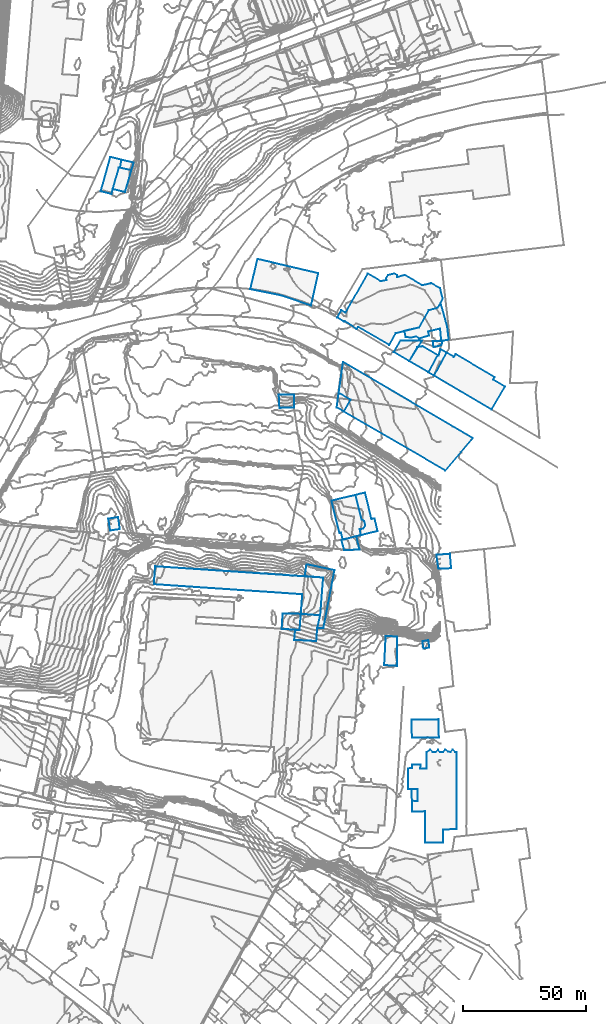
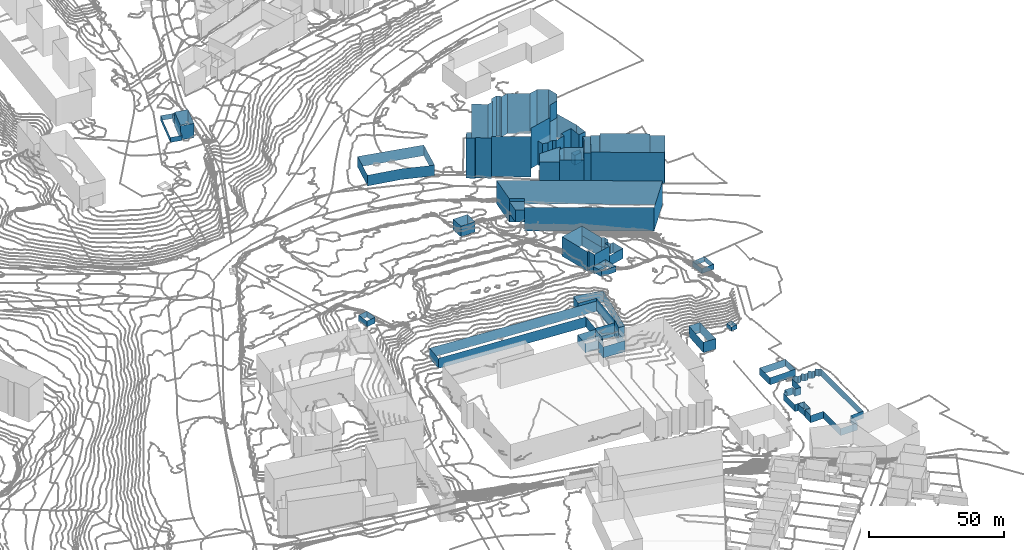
# Not in any storey, part 54 of 419: 28 walls.
"""IFC2X3 model written with IfcOpenShell, lengths in metres."""

from ifc_helpers import new_model, si_unit, frame, origin_with_axes, place, context, subcontext, project, faceted_brep, element, save


model = new_model("IFC2X3")

# Units and contexts
model_context = context("Model", 3, precision=1e-05, world=origin_with_axes())
body_context = subcontext(model_context, "Body", "Model", "MODEL_VIEW")
ifc_project = project(units=[si_unit("AREAUNIT", "SQUARE_METRE"), si_unit("LENGTHUNIT", "METRE")], contexts=[model_context])

# Walls
wall_1_placement = place(None, frame((953.4920204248, 415.3976909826, 67.8876001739), z_axis=(0.0, 0.0, 1.0), x_axis=(1.0, 0.0, 0.0)))
element("IfcWall", 1, at=wall_1_placement, Name="Mur 0", context=body_context, shape_type="Brep", body=[
    faceted_brep([(5.2, -0.2999999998, 4.7123998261), (0.0, 0.0, 4.7123998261), (5.2, -0.2999999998, 0.0), (0.0, 0.0, 0.0), (5.2999999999, 11.7000000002, 4.7123998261), (5.2999999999, 11.7000000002, 0.0), (0.6, 11.7999999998, 4.7123998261), (0.6, 11.7999999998, 0.0)], [[[0, 1, 2]], [[2, 1, 3]], [[4, 0, 5]], [[5, 0, 2]], [[1, 6, 3]], [[3, 6, 7]], [[6, 4, 7]], [[7, 4, 5]]]),
])
wall_2_placement = place(None, frame((964.6920204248, 393.1976909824, 67.3694023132), z_axis=(0.0, 0.0, 1.0), x_axis=(1.0, 0.0, 0.0)))
element("IfcWall", 2, at=wall_2_placement, Name="Mur 0", context=body_context, shape_type="Brep", body=[
    faceted_brep([(11.0, 0.1000000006, 3.2305976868), (11.1, -7.2999999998, 3.2305976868), (11.0, 0.1000000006, 0.0), (11.1, -7.2999999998, 0.0), (0.0, 0.0, 3.2305976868), (0.0, 0.0, 0.0), (0.1, -7.3999999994, 3.2305976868), (0.1, -7.3999999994, 0.0)], [[[0, 1, 2]], [[2, 1, 3]], [[4, 0, 5]], [[5, 0, 2]], [[1, 6, 3]], [[3, 6, 7]], [[6, 4, 7]], [[7, 4, 5]]]),
])
wall_3_placement = place(None, frame((916.7920204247, 425.6976909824, 72.122000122), z_axis=(0.0, 0.0, 1.0), x_axis=(1.0, 0.0, 0.0)))
element("IfcWall", 3, at=wall_3_placement, Name="Mur 0", context=body_context, shape_type="Brep", body=[
    faceted_brep([(0.0, 0.0, 4.977999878), (0.4, 4.1000000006, 4.977999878), (0.0, 0.0, 0.0), (0.4, 4.1000000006, 0.0), (9.0, -0.5, 4.977999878), (9.0, -0.5, 0.0), (9.4, 4.9000000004, 4.977999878), (9.4, 4.9000000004, 0.0), (10.6000000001, 10.0, 4.977999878), (10.6000000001, 10.0, 0.0), (2.7000000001, 10.6000000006, 4.977999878), (2.7000000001, 10.6000000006, 0.0), (2.2000000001, 4.0, 4.977999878), (2.2000000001, 4.0, 0.0)], [[[0, 1, 2]], [[2, 1, 3]], [[4, 0, 5]], [[5, 0, 2]], [[6, 4, 7]], [[7, 4, 5]], [[8, 6, 9]], [[9, 6, 7]], [[10, 8, 11]], [[11, 8, 9]], [[1, 12, 3]], [[3, 12, 13]], [[12, 10, 13]], [[13, 10, 11]]]),
])
wall_4_placement = place(None, frame((898.8920204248, 568.6976909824, 69.1679992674), z_axis=(0.0, 0.0, 1.0), x_axis=(1.0, 0.0, 0.0)))
element("IfcWall", 4, at=wall_4_placement, Name="Mur 0", context=body_context, shape_type="Brep", body=[
    faceted_brep([(27.7, 6.5, 4.8320007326), (25.2, -4.5999999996, 4.8320007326), (27.7, 6.5, 0.0), (25.2, -4.5999999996, 0.0), (2.8999999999, 12.2999999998, 4.8320007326), (2.8999999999, 12.2999999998, 0.0), (0.0, 0.0, 4.8320007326), (0.0, 0.0, 0.0), (12.7, -2.5999999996, 4.8320007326), (12.7, -2.5999999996, 0.0), (24.7, -6.7000000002, 4.8320007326), (24.7, -6.7000000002, 0.0)], [[[0, 1, 2]], [[2, 1, 3]], [[4, 0, 5]], [[5, 0, 2]], [[6, 4, 7]], [[7, 4, 5]], [[8, 6, 9]], [[9, 6, 7]], [[1, 10, 3]], [[3, 10, 11]], [[10, 8, 11]], [[11, 8, 9]]]),
])
wall_5_placement = place(None, frame((859.5920204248, 448.3976909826, 73.6399993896), z_axis=(0.0, 0.0, 1.0), x_axis=(1.0, 0.0, 0.0)))
element("IfcWall", 5, at=wall_5_placement, Name="Mur 0", context=body_context, shape_type="Brep", body=[
    faceted_brep([(67.8, -12.7000000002, 4.5600006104), (59.9, -12.0999999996, 4.5600006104), (67.8, -12.7000000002, 0.0), (59.9, -12.0999999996, 0.0), (69.0, 2.7000000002, 4.5600006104), (69.0, 2.7000000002, 0.0), (0.5, 7.2999999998, 4.5600006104), (0.5, 7.2999999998, 0.0), (0.0, 0.0, 4.5600006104), (0.0, 0.0, 0.0), (60.5, -4.0999999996, 4.5600006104), (60.5, -4.0999999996, 0.0)], [[[0, 1, 2]], [[2, 1, 3]], [[4, 0, 5]], [[5, 0, 2]], [[6, 4, 7]], [[7, 4, 5]], [[8, 6, 9]], [[9, 6, 7]], [[1, 10, 3]], [[3, 10, 11]], [[10, 8, 11]], [[11, 8, 9]]]),
])
wall_6_placement = place(None, frame((973.7920204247, 533.3976909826, 65.5460006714), z_axis=(0.0, 0.0, 1.0), x_axis=(1.0, 0.0, 0.0)))
element("IfcWall", 6, at=wall_6_placement, Name="Mur 0", context=body_context, shape_type="Brep", body=[
    faceted_brep([(0.0, 0.0, 14.0539993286), (5.1000000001, 9.4000000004, 14.0539993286), (0.0, 0.0, 0.0), (5.1000000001, 9.4000000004, 0.0), (23.4, -13.7999999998, 14.0539993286), (23.4, -13.7999999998, 0.0), (28.9, -4.5, 14.0539993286), (28.9, -4.5, 0.0), (24.2000000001, -1.5999999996, 14.0539993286), (24.2000000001, -1.5999999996, 0.0), (24.7000000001, -0.5999999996, 14.0539993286), (24.7000000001, -0.5999999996, 0.0), (8.8, 8.7999999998, 14.0539993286), (8.8, 8.7999999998, 0.0), (8.1000000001, 7.7000000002, 14.0539993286), (8.1000000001, 7.7000000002, 0.0)], [[[0, 1, 2]], [[2, 1, 3]], [[4, 0, 5]], [[5, 0, 2]], [[6, 4, 7]], [[7, 4, 5]], [[8, 6, 9]], [[9, 6, 7]], [[10, 8, 11]], [[11, 8, 9]], [[12, 10, 13]], [[13, 10, 11]], [[1, 14, 3]], [[3, 14, 15]], [[14, 12, 15]], [[15, 12, 13]]]),
])
wall_7_placement = place(None, frame((840.9920204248, 475.0976909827, 85.326399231), z_axis=(0.0, 0.0, 1.0), x_axis=(1.0, 0.0, 0.0)))
element("IfcWall", 7, at=wall_7_placement, Name="Mur 0", context=body_context, shape_type="Brep", body=[
    faceted_brep([(0.0, 0.0, 2.673600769), (4.0, 0.7000000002, 2.673600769), (0.0, 0.0, 0.0), (4.0, 0.7000000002, 0.0), (0.7999999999, -4.7999999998, 2.673600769), (0.7999999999, -4.7999999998, 0.0), (4.7, -4.2000000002, 2.673600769), (4.7, -4.2000000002, 0.0)], [[[0, 1, 2]], [[2, 1, 3]], [[4, 0, 5]], [[5, 0, 2]], [[1, 6, 3]], [[3, 6, 7]], [[6, 4, 7]], [[7, 4, 5]]]),
])
wall_8_placement = place(None, frame((961.6920204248, 551.6976909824, 67.0032022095), z_axis=(0.0, 0.0, 1.0), x_axis=(1.0, 0.0, 0.0)))
element("IfcWall", 8, at=wall_8_placement, Name="Mur 0", context=body_context, shape_type="Brep", body=[
    faceted_brep([(13.6, 9.4000000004, 10.7967977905), (14.8, 11.4000000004, 10.7967977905), (13.6, 9.4000000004, 0.0), (14.8, 11.4000000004, 0.0), (10.0, 8.4000000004, 10.7967977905), (10.0, 8.4000000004, 0.0), (6.0, 1.4000000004, 10.7967977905), (6.0, 1.4000000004, 0.0), (0.0, 0.0, 10.7967977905), (0.0, 0.0, 0.0), (0.6, -2.5, 10.7967977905), (0.6, -2.5, 0.0), (2.7000000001, -2.7999999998, 10.7967977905), (2.7000000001, -2.7999999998, 0.0), (4.8, -2.2999999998, 10.7967977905), (4.8, -2.2999999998, 0.0), (6.0, -3.0999999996, 10.7967977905), (6.0, -3.0999999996, 0.0), (10.1, -1.8999999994, 10.7967977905), (10.1, -1.8999999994, 0.0), (9.8, -0.2000000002, 10.7967977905), (9.8, -0.2000000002, 0.0), (14.6, 0.9000000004, 10.7967977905), (14.6, 0.9000000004, 0.0), (15.1, -4.0999999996, 10.7967977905), (15.1, -4.0999999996, 0.0), (18.1, -3.5999999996, 10.7967977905), (18.1, -3.5999999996, 0.0), (17.5, 1.7999999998, 10.7967977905), (17.5, 1.7999999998, 0.0)], [[[0, 1, 2]], [[2, 1, 3]], [[4, 0, 5]], [[5, 0, 2]], [[6, 4, 7]], [[7, 4, 5]], [[8, 6, 9]], [[9, 6, 7]], [[10, 8, 11]], [[11, 8, 9]], [[12, 10, 13]], [[13, 10, 11]], [[14, 12, 15]], [[15, 12, 13]], [[16, 14, 17]], [[17, 14, 15]], [[18, 16, 19]], [[19, 16, 17]], [[20, 18, 21]], [[21, 18, 19]], [[22, 20, 23]], [[23, 20, 21]], [[24, 22, 25]], [[25, 22, 23]], [[26, 24, 27]], [[27, 24, 25]], [[1, 28, 3]], [[3, 28, 29]], [[28, 26, 29]], [[29, 26, 27]]]),
])
wall_9_placement = place(None, frame((934.8920204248, 526.3976909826, 65.8939987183), z_axis=(0.0, 0.0, 1.0), x_axis=(1.0, 0.0, 0.0)))
element("IfcWall", 9, at=wall_9_placement, Name="Mur 0", context=body_context, shape_type="Brep", body=[
    faceted_brep([(0.0, 0.0, 10.6060012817), (1.7999999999, 12.5999999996, 10.6060012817), (0.0, 0.0, 0.0), (1.7999999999, 12.5999999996, 0.0), (4.8999999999, -2.7999999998, 10.6060012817), (4.8999999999, -2.7999999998, 0.0), (2.1, -7.5999999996, 10.6060012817), (2.1, -7.5999999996, 0.0), (43.5, -31.5999999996, 10.6060012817), (43.5, -31.5999999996, 0.0), (54.7, -18.4000000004, 10.6060012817), (54.7, -18.4000000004, 0.0)], [[[0, 1, 2]], [[2, 1, 3]], [[4, 0, 5]], [[5, 0, 2]], [[6, 4, 7]], [[7, 4, 5]], [[8, 6, 9]], [[9, 6, 7]], [[1, 10, 3]], [[3, 10, 11]], [[10, 8, 11]], [[11, 8, 9]]]),
])
wall_10_placement = place(None, frame((963.6920204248, 539.3976909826, 66.1481985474), z_axis=(0.0, 0.0, 1.0), x_axis=(1.0, 0.0, 0.0)))
element("IfcWall", 10, at=wall_10_placement, Name="Mur 0", context=body_context, shape_type="Brep", body=[
    faceted_brep([(7.8, -4.5999999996, 9.8518014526), (0.0, 0.0, 9.8518014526), (7.8, -4.5999999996, 0.0), (0.0, 0.0, 0.0), (11.6, 2.4000000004, 9.8518014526), (11.6, 2.4000000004, 0.0), (5.5, 6.0, 9.8518014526), (5.5, 6.0, 0.0), (3.3, 5.7000000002, 9.8518014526), (3.3, 5.7000000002, 0.0)], [[[0, 1, 2]], [[2, 1, 3]], [[4, 0, 5]], [[5, 0, 2]], [[6, 4, 7]], [[7, 4, 5]], [[1, 8, 3]], [[3, 8, 9]], [[8, 6, 9]], [[9, 6, 7]]]),
])
wall_11_placement = place(None, frame((921.0920204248, 451.6976909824, 74.3155002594), z_axis=(0.0, 0.0, 1.0), x_axis=(1.0, 0.0, 0.0)))
element("IfcWall", 11, at=wall_11_placement, Name="Mur 0", context=body_context, shape_type="Brep", body=[
    faceted_brep([(7.5, -0.5999999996, 5.1844997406), (0.0, 0.0, 5.1844997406), (7.5, -0.5999999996, 0.0), (0.0, 0.0, 0.0), (6.3, -16.0, 5.1844997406), (6.3, -16.0, 0.0), (5.1, -21.0999999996, 5.1844997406), (5.1, -21.0999999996, 0.0), (7.6, -21.2000000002, 5.1844997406), (7.6, -21.2000000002, 0.0), (12.1, 2.4000000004, 5.1844997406), (12.1, 2.4000000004, 0.0), (0.7, 4.7999999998, 5.1844997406), (0.7, 4.7999999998, 0.0)], [[[0, 1, 2]], [[2, 1, 3]], [[4, 0, 5]], [[5, 0, 2]], [[6, 4, 7]], [[7, 4, 5]], [[8, 6, 9]], [[9, 6, 7]], [[10, 8, 11]], [[11, 8, 9]], [[1, 12, 3]], [[3, 12, 13]], [[12, 10, 13]], [[13, 10, 11]]]),
])
wall_12_placement = place(None, frame((974.7920204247, 460.3976909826, 71.9800033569), z_axis=(0.0, 0.0, 1.0), x_axis=(1.0, 0.0, 0.0)))
element("IfcWall", 12, at=wall_12_placement, Name="Mur 0", context=body_context, shape_type="Brep", body=[
    faceted_brep([(6.0, -5.5, 2.3199966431), (0.8, -5.7000000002, 2.3199966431), (6.0, -5.5, 0.0), (0.8, -5.7000000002, 0.0), (5.5, 0.4000000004, 2.3199966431), (5.5, 0.4000000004, 0.0), (0.0, 0.0, 2.3199966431), (0.0, 0.0, 0.0)], [[[0, 1, 2]], [[2, 1, 3]], [[4, 0, 5]], [[5, 0, 2]], [[1, 6, 3]], [[3, 6, 7]], [[6, 4, 7]], [[7, 4, 5]]]),
])
wall_13_placement = place(None, frame((936.0920204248, 466.3976909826, 79.3064013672), z_axis=(0.0, 0.0, 1.0), x_axis=(1.0, 0.0, 0.0)))
element("IfcWall", 13, at=wall_13_placement, Name="Mur 0", context=body_context, shape_type="Brep", body=[
    faceted_brep([(6.1, 1.5999999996, 2.5935986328), (7.3, -3.9000000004, 2.5935986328), (6.1, 1.5999999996, 0.0), (7.3, -3.9000000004, 0.0), (0.0, 0.0, 2.5935986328), (0.0, 0.0, 0.0), (1.1, -4.0999999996, 2.5935986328), (1.1, -4.0999999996, 0.0)], [[[0, 1, 2]], [[2, 1, 3]], [[4, 0, 5]], [[5, 0, 2]], [[1, 6, 3]], [[3, 6, 7]], [[6, 4, 7]], [[7, 4, 5]]]),
])
wall_14_placement = place(None, frame((969.0920204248, 425.1976909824, 67.7818008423), z_axis=(0.0, 0.0, 1.0), x_axis=(1.0, 0.0, 0.0)))
element("IfcWall", 14, at=wall_14_placement, Name="Mur 0", context=body_context, shape_type="Brep", body=[
    faceted_brep([(2.4, 0.4000000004, 1.9181991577), (2.8, -2.5999999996, 1.9181991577), (2.4, 0.4000000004, 0.0), (2.8, -2.5999999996, 0.0), (0.0, 0.0, 1.9181991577), (0.0, 0.0, 0.0), (0.4, -3.0, 1.9181991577), (0.4, -3.0, 0.0)], [[[0, 1, 2]], [[2, 1, 3]], [[4, 0, 5]], [[5, 0, 2]], [[1, 6, 3]], [[3, 6, 7]], [[6, 4, 7]], [[7, 4, 5]]]),
])
wall_15_placement = place(None, frame((910.4920204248, 525.6976909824, 71.4103997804), z_axis=(0.0, 0.0, 1.0), x_axis=(1.0, 0.0, 0.0)))
element("IfcWall", 15, at=wall_15_placement, Name="Mur 0", context=body_context, shape_type="Brep", body=[
    faceted_brep([(6.2, 0.0, 4.7896002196), (6.2999999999, -5.2999999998, 4.7896002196), (6.2, 0.0, 0.0), (6.2999999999, -5.2999999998, 0.0), (0.0, 0.0, 4.7896002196), (0.0, 0.0, 0.0), (0.2999999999, -5.3999999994, 4.7896002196), (0.2999999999, -5.3999999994, 0.0)], [[[0, 1, 2]], [[2, 1, 3]], [[4, 0, 5]], [[5, 0, 2]], [[1, 6, 3]], [[3, 6, 7]], [[6, 4, 7]], [[7, 4, 5]]]),
])
wall_16_placement = place(None, frame((934.0920204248, 520.4976909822, 69.7540005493), z_axis=(0.0, 0.0, 1.0), x_axis=(1.0, 0.0, 0.0)))
element("IfcWall", 16, at=wall_16_placement, Name="Mur 0", context=body_context, shape_type="Brep", body=[
    faceted_brep([(0.0, 0.0, 5.4459994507), (0.8, 5.9000000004, 5.4459994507), (0.0, 0.0, 0.0), (0.8, 5.9000000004, 0.0), (2.9, -1.6999999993, 5.4459994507), (2.9, -1.6999999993, 0.0), (5.7, 3.1000000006, 5.4459994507), (5.7, 3.1000000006, 0.0)], [[[0, 1, 2]], [[2, 1, 3]], [[4, 0, 5]], [[5, 0, 2]], [[1, 6, 3]], [[3, 6, 7]], [[6, 4, 7]], [[7, 4, 5]]]),
])
wall_17_placement = place(None, frame((963.2920204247, 364.7976909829, 68.5444026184), z_axis=(0.0, 0.0, 1.0), x_axis=(1.0, 0.0, 0.0)))
element("IfcWall", 17, at=wall_17_placement, Name="Mur 0", context=body_context, shape_type="Brep", body=[
    faceted_brep([(1.5, -9.1000000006, 3.2555973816), (1.5, -4.7000000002, 3.2555973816), (1.5, -9.1000000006, 0.0), (1.5, -4.7000000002, 0.0), (6.9, -9.0, 3.2555973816), (6.9, -9.0, 0.0), (6.9, -21.8000000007, 3.2555973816), (6.9, -21.8000000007, 0.0), (14.2000000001, -21.8000000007, 3.2555973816), (14.2000000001, -21.8000000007, 0.0), (14.3, -16.4000000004, 3.2555973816), (14.3, -16.4000000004, 0.0), (19.8, -16.3000000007, 3.2555973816), (19.8, -16.3000000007, 0.0), (19.8, 15.1999999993, 3.2555973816), (19.8, 15.1999999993, 0.0), (19.1000000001, 15.1999999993, 3.2555973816), (19.1000000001, 15.1999999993, 0.0), (18.1000000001, 16.1999999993, 3.2555973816), (18.1000000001, 16.1999999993, 0.0), (17.2000000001, 15.1999999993, 3.2555973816), (17.2000000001, 15.1999999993, 0.0), (16.2000000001, 15.2999999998, 3.2555973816), (16.2000000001, 15.2999999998, 0.0), (15.0, 16.1999999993, 3.2555973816), (15.0, 16.1999999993, 0.0), (14.2000000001, 15.1999999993, 3.2555973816), (14.2000000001, 15.1999999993, 0.0), (13.0, 15.1999999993, 3.2555973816), (13.0, 15.1999999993, 0.0), (12.1000000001, 16.0999999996, 3.2555973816), (12.1000000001, 16.0999999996, 0.0), (11.2000000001, 15.1999999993, 3.2555973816), (11.2000000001, 15.1999999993, 0.0), (10.0, 15.1999999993, 3.2555973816), (10.0, 15.1999999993, 0.0), (9.0, 16.0999999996, 3.2555973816), (9.0, 16.0999999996, 0.0), (7.4, 15.0999999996, 3.2555973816), (7.4, 15.0999999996, 0.0), (7.5, 8.5, 3.2555973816), (7.5, 8.5, 0.0), (4.9, 8.5, 3.2555973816), (4.9, 8.5, 0.0), (5.0, 10.0, 3.2555973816), (5.0, 10.0, 0.0), (1.5, 10.0999999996, 3.2555973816), (1.5, 10.0999999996, 0.0), (1.5, 8.5999999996, 3.2555973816), (1.5, 8.5999999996, 0.0), (0.0, 8.5, 3.2555973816), (0.0, 8.5, 0.0), (0.0, 0.0, 3.2555973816), (0.0, 0.0, 0.0), (3.9, 0.0, 3.2555973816), (3.9, 0.0, 0.0), (3.8, -4.8000000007, 3.2555973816), (3.8, -4.8000000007, 0.0)], [[[0, 1, 2]], [[2, 1, 3]], [[4, 0, 5]], [[5, 0, 2]], [[6, 4, 7]], [[7, 4, 5]], [[8, 6, 9]], [[9, 6, 7]], [[10, 8, 11]], [[11, 8, 9]], [[12, 10, 13]], [[13, 10, 11]], [[14, 12, 15]], [[15, 12, 13]], [[16, 14, 17]], [[17, 14, 15]], [[18, 16, 19]], [[19, 16, 17]], [[20, 18, 21]], [[21, 18, 19]], [[22, 20, 23]], [[23, 20, 21]], [[24, 22, 25]], [[25, 22, 23]], [[26, 24, 27]], [[27, 24, 25]], [[28, 26, 29]], [[29, 26, 27]], [[30, 28, 31]], [[31, 28, 29]], [[32, 30, 33]], [[33, 30, 31]], [[34, 32, 35]], [[35, 32, 33]], [[36, 34, 37]], [[37, 34, 35]], [[38, 36, 39]], [[39, 36, 37]], [[40, 38, 41]], [[41, 38, 39]], [[42, 40, 43]], [[43, 40, 41]], [[44, 42, 45]], [[45, 42, 43]], [[46, 44, 47]], [[47, 44, 45]], [[48, 46, 49]], [[49, 46, 47]], [[50, 48, 51]], [[51, 48, 49]], [[52, 50, 53]], [[53, 50, 51]], [[54, 52, 55]], [[55, 52, 53]], [[1, 56, 3]], [[3, 56, 57]], [[56, 54, 57]], [[57, 54, 55]]]),
])
wall_18_placement = place(None, frame((842.7920204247, 609.4976909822, 84.8344024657), z_axis=(0.0, 0.0, 1.0), x_axis=(1.0, 0.0, 0.0)))
element("IfcWall", 18, at=wall_18_placement, Name="Mur 0", context=body_context, shape_type="Brep", body=[
    faceted_brep([(2.5, 8.8000000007, 6.3655975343), (7.6000000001, 7.7000000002, 6.3655975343), (2.5, 8.8000000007, 0.0), (7.6000000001, 7.7000000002, 0.0), (0.0, 0.0, 6.3655975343), (0.0, 0.0, 0.0), (5.0, -1.1999999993, 6.3655975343), (5.0, -1.1999999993, 0.0)], [[[0, 1, 2]], [[2, 1, 3]], [[4, 0, 5]], [[5, 0, 2]], [[1, 6, 3]], [[3, 6, 7]], [[6, 4, 7]], [[7, 4, 5]]]),
])
wall_19_placement = place(None, frame((934.2920204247, 557.1976909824, 67.2743998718), z_axis=(0.0, 0.0, 1.0), x_axis=(1.0, 0.0, 0.0)))
element("IfcWall", 19, at=wall_19_placement, Name="Mur 0", context=body_context, shape_type="Brep", body=[
    faceted_brep([(3.1000000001, -1.5, 18.1256001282), (2.8, -1.7999999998, 18.1256001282), (3.1000000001, -1.5, 0.0), (2.8, -1.7999999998, 0.0), (8.0, -4.7999999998, 18.1256001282), (8.0, -4.7999999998, 0.0), (8.6000000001, -3.8999999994, 18.1256001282), (8.6000000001, -3.8999999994, 0.0), (21.2000000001, -11.2000000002, 18.1256001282), (21.2000000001, -11.2000000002, 0.0), (23.9, -6.5, 18.1256001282), (23.9, -6.5, 0.0), (33.4, -4.0999999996, 18.1256001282), (33.4, -4.0999999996, 0.0), (37.4, 2.9000000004, 18.1256001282), (37.4, 2.9000000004, 0.0), (41.0, 3.9000000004, 18.1256001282), (41.0, 3.9000000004, 0.0), (43.1000000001, 7.6000000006, 18.1256001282), (43.1000000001, 7.6000000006, 0.0), (42.0, 11.9000000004, 18.1256001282), (42.0, 11.9000000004, 0.0), (38.3, 13.9000000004, 18.1256001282), (38.3, 13.9000000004, 0.0), (34.7000000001, 13.1000000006, 18.1256001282), (34.7000000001, 13.1000000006, 0.0), (27.5, 17.2999999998, 18.1256001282), (27.5, 17.2999999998, 0.0), (24.5, 16.4000000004, 18.1256001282), (24.5, 16.4000000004, 0.0), (24.4, 17.2000000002, 18.1256001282), (24.4, 17.2000000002, 0.0), (23.2000000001, 17.9000000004, 18.1256001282), (23.2000000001, 17.9000000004, 0.0), (20.7000000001, 17.2000000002, 18.1256001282), (20.7000000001, 17.2000000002, 0.0), (19.9, 15.9000000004, 18.1256001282), (19.9, 15.9000000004, 0.0), (20.1000000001, 15.2999999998, 18.1256001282), (20.1000000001, 15.2999999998, 0.0), (17.8, 14.7000000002, 18.1256001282), (17.8, 14.7000000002, 0.0), (12.5, 17.9000000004, 18.1256001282), (12.5, 17.9000000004, 0.0), (3.4, 1.9000000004, 18.1256001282), (3.4, 1.9000000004, 0.0), (1.7000000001, 2.9000000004, 18.1256001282), (1.7000000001, 2.9000000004, 0.0), (0.0, 0.0, 18.1256001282), (0.0, 0.0, 0.0)], [[[0, 1, 2]], [[2, 1, 3]], [[4, 0, 5]], [[5, 0, 2]], [[6, 4, 7]], [[7, 4, 5]], [[8, 6, 9]], [[9, 6, 7]], [[10, 8, 11]], [[11, 8, 9]], [[12, 10, 13]], [[13, 10, 11]], [[14, 12, 15]], [[15, 12, 13]], [[16, 14, 17]], [[17, 14, 15]], [[18, 16, 19]], [[19, 16, 17]], [[20, 18, 21]], [[21, 18, 19]], [[22, 20, 23]], [[23, 20, 21]], [[24, 22, 25]], [[25, 22, 23]], [[26, 24, 27]], [[27, 24, 25]], [[28, 26, 29]], [[29, 26, 27]], [[30, 28, 31]], [[31, 28, 29]], [[32, 30, 33]], [[33, 30, 31]], [[34, 32, 35]], [[35, 32, 33]], [[36, 34, 37]], [[37, 34, 35]], [[38, 36, 39]], [[39, 36, 37]], [[40, 38, 41]], [[41, 38, 39]], [[42, 40, 43]], [[43, 40, 41]], [[44, 42, 45]], [[45, 42, 43]], [[46, 44, 47]], [[47, 44, 45]], [[1, 48, 3]], [[3, 48, 49]], [[48, 46, 49]], [[49, 46, 47]]]),
])
wall_20_placement = place(None, frame((957.3920204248, 543.0976909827, 66.6909973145), z_axis=(0.0, 0.0, 1.0), x_axis=(1.0, 0.0, 0.0)))
element("IfcWall", 20, at=wall_20_placement, Name="Mur 0", context=body_context, shape_type="Brep", body=[
    faceted_brep([(6.2999999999, -3.7000000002, 8.3090026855), (0.0, 0.0, 8.3090026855), (6.2999999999, -3.7000000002, 0.0), (0.0, 0.0, 0.0), (11.5, 4.5999999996, 8.3090026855), (11.5, 4.5999999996, 0.0), (2.7, 4.5999999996, 8.3090026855), (2.7, 4.5999999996, 0.0)], [[[0, 1, 2]], [[2, 1, 3]], [[4, 0, 5]], [[5, 0, 2]], [[1, 6, 3]], [[3, 6, 7]], [[6, 4, 7]], [[7, 4, 5]]]),
])
wall_21_placement = place(None, frame((845.7920204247, 618.1976909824, 84.6286019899), z_axis=(0.0, 0.0, 1.0), x_axis=(1.0, 0.0, 0.0)))
element("IfcWall", 21, at=wall_21_placement, Name="Mur 0", context=body_context, shape_type="Brep", body=[
    faceted_brep([(5.5, 2.1000000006, 3.6713980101), (4.6000000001, -1.0, 3.6713980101), (5.5, 2.1000000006, 0.0), (4.6000000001, -1.0, 0.0), (0.5, 3.2999999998, 3.6713980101), (0.5, 3.2999999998, 0.0), (0.0, 0.0, 3.6713980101), (0.0, 0.0, 0.0)], [[[0, 1, 2]], [[2, 1, 3]], [[4, 0, 5]], [[5, 0, 2]], [[1, 6, 3]], [[3, 6, 7]], [[6, 4, 7]], [[7, 4, 5]]]),
])
wall_22_placement = place(None, frame((971.4920204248, 534.7976909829, 65.9439987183), z_axis=(0.0, 0.0, 1.0), x_axis=(1.0, 0.0, 0.0)))
element("IfcWall", 22, at=wall_22_placement, Name="Mur 0", context=body_context, shape_type="Brep", body=[
    faceted_brep([(2.2999999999, -1.4000000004, 13.1560012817), (0.0, 0.0, 13.1560012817), (2.2999999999, -1.4000000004, 0.0), (0.0, 0.0, 0.0), (7.4, 8.0, 13.1560012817), (7.4, 8.0, 0.0), (4.9, 9.5, 13.1560012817), (4.9, 9.5, 0.0), (4.2, 6.7999999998, 13.1560012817), (4.2, 6.7999999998, 0.0), (3.7999999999, 7.0, 13.1560012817), (3.7999999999, 7.0, 0.0)], [[[0, 1, 2]], [[2, 1, 3]], [[4, 0, 5]], [[5, 0, 2]], [[6, 4, 7]], [[7, 4, 5]], [[8, 6, 9]], [[9, 6, 7]], [[1, 10, 3]], [[3, 10, 11]], [[10, 8, 11]], [[11, 8, 9]]]),
])
wall_23_placement = place(None, frame((837.8920204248, 608.5976909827, 85.9510025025), z_axis=(0.0, 0.0, 1.0), x_axis=(1.0, 0.0, 0.0)))
element("IfcWall", 23, at=wall_23_placement, Name="Mur 0", context=body_context, shape_type="Brep", body=[
    faceted_brep([(7.3999999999, 9.7000000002, 2.2489974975), (4.8999999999, 0.8999999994, 2.2489974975), (7.3999999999, 9.7000000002, 0.0), (4.8999999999, 0.8999999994, 0.0), (7.8999999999, 9.5999999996, 2.2489974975), (7.8999999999, 9.5999999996, 0.0), (8.3999999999, 12.8999999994, 2.2489974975), (8.3999999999, 12.8999999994, 0.0), (3.8999999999, 14.0, 2.2489974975), (3.8999999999, 14.0, 0.0), (0.0, 0.0, 2.2489974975), (0.0, 0.0, 0.0), (4.3999999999, -1.1000000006, 2.2489974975), (4.3999999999, -1.1000000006, 0.0)], [[[0, 1, 2]], [[2, 1, 3]], [[4, 0, 5]], [[5, 0, 2]], [[6, 4, 7]], [[7, 4, 5]], [[8, 6, 9]], [[9, 6, 7]], [[10, 8, 11]], [[11, 8, 9]], [[1, 12, 3]], [[3, 12, 13]], [[12, 10, 13]], [[13, 10, 11]]]),
])
wall_24_placement = place(None, frame((931.9920204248, 482.4976909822, 78.2491983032), z_axis=(0.0, 0.0, 1.0), x_axis=(1.0, 0.0, 0.0)))
element("IfcWall", 24, at=wall_24_placement, Name="Mur 0", context=body_context, shape_type="Brep", body=[
    faceted_brep([(12.0, -14.0999999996, 8.7508016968), (10.2, -14.5, 8.7508016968), (12.0, -14.0999999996, 0.0), (10.2, -14.5, 0.0), (11.5, -11.6999999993, 8.7508016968), (11.5, -11.6999999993, 0.0), (13.0, -11.3999999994, 8.7508016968), (13.0, -11.3999999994, 0.0), (13.7999999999, -10.0999999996, 8.7508016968), (13.7999999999, -10.0999999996, 0.0), (13.4, -8.3999999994, 8.7508016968), (13.4, -8.3999999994, 0.0), (12.2999999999, -7.6999999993, 8.7508016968), (12.2999999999, -7.6999999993, 0.0), (9.7999999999, 2.3000000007, 8.7508016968), (9.7999999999, 2.3000000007, 0.0), (0.0, 0.0, 8.7508016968), (0.0, 0.0, 0.0), (3.2999999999, -13.1999999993, 8.7508016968), (3.2999999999, -13.1999999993, 0.0), (3.9, -13.0, 8.7508016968), (3.9, -13.0, 0.0), (4.6, -15.8999999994, 8.7508016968), (4.6, -15.8999999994, 0.0)], [[[0, 1, 2]], [[2, 1, 3]], [[4, 0, 5]], [[5, 0, 2]], [[6, 4, 7]], [[7, 4, 5]], [[8, 6, 9]], [[9, 6, 7]], [[10, 8, 11]], [[11, 8, 9]], [[12, 10, 13]], [[13, 10, 11]], [[14, 12, 15]], [[15, 12, 13]], [[16, 14, 17]], [[17, 14, 15]], [[18, 16, 19]], [[19, 16, 17]], [[20, 18, 21]], [[21, 18, 19]], [[1, 22, 3]], [[3, 22, 23]], [[22, 20, 23]], [[23, 20, 21]]]),
])
wall_25_placement = place(None, frame((973.2920204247, 547.4976909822, 66.6039978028), z_axis=(0.0, 0.0, 1.0), x_axis=(1.0, 0.0, 0.0)))
element("IfcWall", 25, at=wall_25_placement, Name="Mur 0", context=body_context, shape_type="Brep", body=[
    faceted_brep([(0.0, 0.0, 4.3960021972), (3.5, 0.1000000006, 4.3960021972), (0.0, 0.0, 0.0), (3.5, 0.1000000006, 0.0), (0.3, -2.3999999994, 4.3960021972), (0.3, -2.3999999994, 0.0), (3.5, -1.6999999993, 4.3960021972), (3.5, -1.6999999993, 0.0), (4.0, 0.1000000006, 4.3960021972), (4.0, 0.1000000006, 0.0)], [[[0, 1, 2]], [[2, 1, 3]], [[4, 0, 5]], [[5, 0, 2]], [[6, 4, 7]], [[7, 4, 5]], [[1, 8, 3]], [[3, 8, 9]], [[8, 6, 9]], [[9, 6, 7]]]),
])
wall_26_placement = place(None, frame((941.7920204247, 484.7976909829, 78.0858007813), z_axis=(0.0, 0.0, 1.0), x_axis=(1.0, 0.0, 0.0)))
element("IfcWall", 26, at=wall_26_placement, Name="Mur 0", context=body_context, shape_type="Brep", body=[
    faceted_brep([(9.0, -14.7000000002, 4.6141992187), (2.2000000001, -16.4000000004, 4.6141992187), (9.0, -14.7000000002, 0.0), (2.2000000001, -16.4000000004, 0.0), (7.8, -9.6000000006, 4.6141992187), (7.8, -9.6000000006, 0.0), (6.5, -9.8000000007, 4.6141992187), (6.5, -9.8000000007, 0.0), (3.9, 1.0, 4.6141992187), (3.9, 1.0, 0.0), (0.0, 0.0, 4.6141992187), (0.0, 0.0, 0.0), (2.5, -10.0, 4.6141992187), (2.5, -10.0, 0.0), (3.6000000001, -10.7000000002, 4.6141992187), (3.6000000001, -10.7000000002, 0.0), (4.0, -12.4000000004, 4.6141992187), (4.0, -12.4000000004, 0.0), (3.2000000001, -13.7000000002, 4.6141992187), (3.2000000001, -13.7000000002, 0.0), (1.7000000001, -14.0, 4.6141992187), (1.7000000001, -14.0, 0.0)], [[[0, 1, 2]], [[2, 1, 3]], [[4, 0, 5]], [[5, 0, 2]], [[6, 4, 7]], [[7, 4, 5]], [[8, 6, 9]], [[9, 6, 7]], [[10, 8, 11]], [[11, 8, 9]], [[12, 10, 13]], [[13, 10, 11]], [[14, 12, 15]], [[15, 12, 13]], [[16, 14, 17]], [[17, 14, 15]], [[18, 16, 19]], [[19, 16, 17]], [[1, 20, 3]], [[3, 20, 21]], [[20, 18, 21]], [[21, 18, 19]]]),
])
wall_27_placement = place(None, frame((964.6920204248, 364.7976909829, 68.6889976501), z_axis=(0.0, 0.0, 1.0), x_axis=(1.0, 0.0, 0.0)))
element("IfcWall", 27, at=wall_27_placement, Name="Mur 0", context=body_context, shape_type="Brep", body=[
    faceted_brep([(2.4, -4.8000000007, 2.9110023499), (0.1, -4.7000000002, 2.9110023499), (2.4, -4.8000000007, 0.0), (0.1, -4.7000000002, 0.0), (2.5, 0.0, 2.9110023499), (2.5, 0.0, 0.0), (0.0, 0.0, 2.9110023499), (0.0, 0.0, 0.0)], [[[0, 1, 2]], [[2, 1, 3]], [[4, 0, 5]], [[5, 0, 2]], [[1, 6, 3]], [[3, 6, 7]], [[6, 4, 7]], [[7, 4, 5]]]),
])
wall_28_placement = place(None, frame((911.6920204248, 430.1976909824, 73.525499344), z_axis=(0.0, 0.0, 1.0), x_axis=(1.0, 0.0, 0.0)))
element("IfcWall", 28, at=wall_28_placement, Name="Mur 0", context=body_context, shape_type="Brep", body=[
    faceted_brep([(7.3, -0.5, 4.074500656), (0.0, 0.0, 4.074500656), (7.3, -0.5, 0.0), (0.0, 0.0, 0.0), (7.8, 6.1000000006, 4.074500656), (7.8, 6.1000000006, 0.0), (0.4, 6.2999999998, 4.074500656), (0.4, 6.2999999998, 0.0)], [[[0, 1, 2]], [[2, 1, 3]], [[4, 0, 5]], [[5, 0, 2]], [[1, 6, 3]], [[3, 6, 7]], [[6, 4, 7]], [[7, 4, 5]]]),
])

save(model, "model.ifc")
